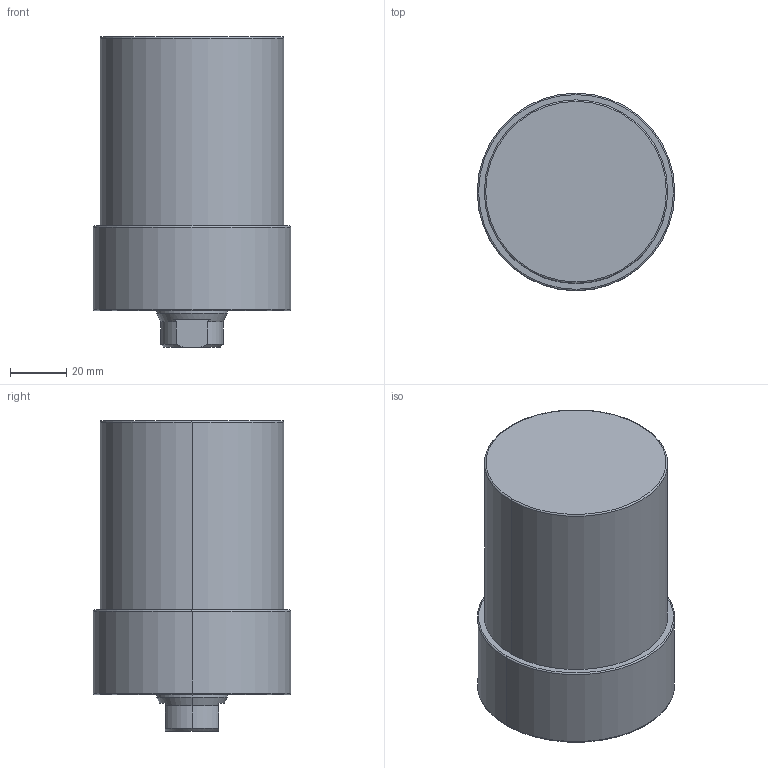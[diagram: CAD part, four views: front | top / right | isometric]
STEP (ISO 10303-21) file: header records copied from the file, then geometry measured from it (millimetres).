
FILE_DESCRIPTION (( 'STEP AP203' ), '1' );
FILE_NAME ('CLLU-065GA-050.STEP', '2020-01-06T08:11:38', ( '' ), ( '' ), 'SwSTEP 2.0', 'SolidWorks 2015', '' );
FILE_SCHEMA (( 'CONFIG_CONTROL_DESIGN' ));
Length unit declared in the file: millimetre
Products named in the file (1): CLLU-065GA-050
Bounding box: 70 x 70 x 110 mm (x, y, z)
Volume: 338317.4 mm3; surface area: 30845.5 mm2
Topology: 1 solids, 1 shells, 64 faces, 145 edges, 82 vertices
Faces by surface type: cone 25, cylinder 23, plane 10, torus 6
Entity records: 1811 total; most frequent: DIRECTION 332, CARTESIAN_POINT 310, ORIENTED_EDGE 270, AXIS2_PLACEMENT_3D 140, EDGE_CURVE 135, VERTEX_POINT 82, CIRCLE 75, EDGE_LOOP 73
